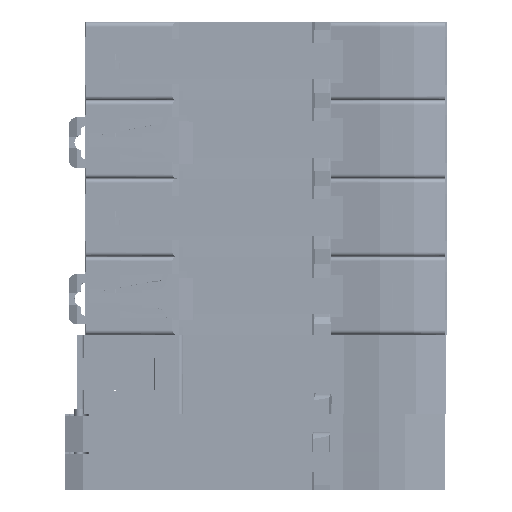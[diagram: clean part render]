
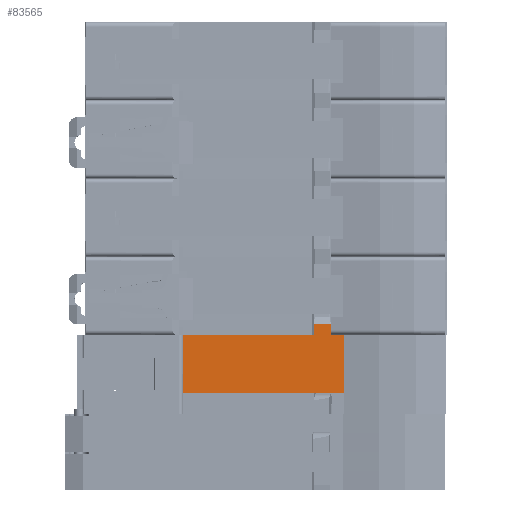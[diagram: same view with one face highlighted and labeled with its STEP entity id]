
A CAD part, front view. The second image highlights one B-rep face of the part: STEP entity #83565.
In plain terms, the highlighted planar face has unit normal (0, -1, 0) as drawn and (0, 1, 0) by its records, which use the part's own axes.
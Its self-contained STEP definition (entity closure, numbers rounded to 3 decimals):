
#18698 = EDGE_CURVE ( 'NONE', #98456, #97428, #146840, .T. ) ;
#18820 = EDGE_CURVE ( 'NONE', #97416, #97566, #154106, .T. ) ;
#18825 = EDGE_CURVE ( 'NONE', #97644, #97648, #154163, .T. ) ;
#18839 = EDGE_CURVE ( 'NONE', #97648, #97712, #154293, .T. ) ;
#18853 = EDGE_CURVE ( 'NONE', #97684, #97644, #154432, .T. ) ;
#18856 = EDGE_CURVE ( 'NONE', #97716, #97684, #154458, .T. ) ;
#18857 = EDGE_CURVE ( 'NONE', #97712, #97416, #154468, .T. ) ;
#18858 = EDGE_CURVE ( 'NONE', #97566, #98456, #154476, .T. ) ;
#18859 = EDGE_CURVE ( 'NONE', #97428, #98482, #154483, .T. ) ;
#18860 = EDGE_CURVE ( 'NONE', #98482, #97716, #154489, .T. ) ;
#31695 = ORIENTED_EDGE ( 'NONE', *, *, #18856, .T. ) ;
#31700 = ORIENTED_EDGE ( 'NONE', *, *, #18853, .T. ) ;
#31706 = ORIENTED_EDGE ( 'NONE', *, *, #18825, .T. ) ;
#31710 = ORIENTED_EDGE ( 'NONE', *, *, #18839, .T. ) ;
#31715 = ORIENTED_EDGE ( 'NONE', *, *, #18857, .T. ) ;
#31719 = ORIENTED_EDGE ( 'NONE', *, *, #18820, .T. ) ;
#31723 = ORIENTED_EDGE ( 'NONE', *, *, #18858, .T. ) ;
#31728 = ORIENTED_EDGE ( 'NONE', *, *, #18698, .T. ) ;
#31732 = ORIENTED_EDGE ( 'NONE', *, *, #18859, .T. ) ;
#31737 = ORIENTED_EDGE ( 'NONE', *, *, #18860, .T. ) ;
#55316 = CARTESIAN_POINT ( 'NONE',  ( -26.263, 26.68, -7.056 ) ) ;
#55326 = CARTESIAN_POINT ( 'NONE',  ( 9.987, 26.68, 6.044 ) ) ;
#55443 = CARTESIAN_POINT ( 'NONE',  ( -26.263, 26.68, 1.844 ) ) ;
#55519 = CARTESIAN_POINT ( 'NONE',  ( 7.188, 26.68, -9.556 ) ) ;
#55523 = CARTESIAN_POINT ( 'NONE',  ( 3.125, 26.68, -9.556 ) ) ;
#55559 = CARTESIAN_POINT ( 'NONE',  ( 7.188, 26.68, -7.056 ) ) ;
#55587 = CARTESIAN_POINT ( 'NONE',  ( 3.125, 26.68, -7.056 ) ) ;
#55591 = CARTESIAN_POINT ( 'NONE',  ( 9.987, 26.68, -7.056 ) ) ;
#55925 = CARTESIAN_POINT ( 'NONE',  ( -26.263, 26.68, 6.044 ) ) ;
#55951 = CARTESIAN_POINT ( 'NONE',  ( 9.987, 26.68, 1.844 ) ) ;
#83565 = ADVANCED_FACE ( 'NONE', ( #189982 ), #189983, .T. ) ;
#97416 = VERTEX_POINT ( 'NONE', #55316 ) ;
#97428 = VERTEX_POINT ( 'NONE', #55326 ) ;
#97566 = VERTEX_POINT ( 'NONE', #55443 ) ;
#97644 = VERTEX_POINT ( 'NONE', #55519 ) ;
#97648 = VERTEX_POINT ( 'NONE', #55523 ) ;
#97684 = VERTEX_POINT ( 'NONE', #55559 ) ;
#97712 = VERTEX_POINT ( 'NONE', #55587 ) ;
#97716 = VERTEX_POINT ( 'NONE', #55591 ) ;
#98456 = VERTEX_POINT ( 'NONE', #55925 ) ;
#98482 = VERTEX_POINT ( 'NONE', #55951 ) ;
#129629 = VECTOR ( 'NONE', #146870, 1000. ) ;
#129835 = VECTOR ( 'NONE', #154125, 1000. ) ;
#129843 = VECTOR ( 'NONE', #154170, 1000. ) ;
#129874 = VECTOR ( 'NONE', #154300, 1000. ) ;
#129895 = VECTOR ( 'NONE', #154438, 1000. ) ;
#129902 = VECTOR ( 'NONE', #154465, 1000. ) ;
#129904 = VECTOR ( 'NONE', #154475, 1000. ) ;
#129906 = VECTOR ( 'NONE', #154481, 1000. ) ;
#129908 = VECTOR ( 'NONE', #154487, 1000. ) ;
#129910 = VECTOR ( 'NONE', #154493, 1000. ) ;
#146840 = LINE ( 'NONE', #146863, #129629 ) ;
#146863 = CARTESIAN_POINT ( 'NONE',  ( -26.263, 26.68, 6.044 ) ) ;
#146870 = DIRECTION ( 'NONE',  ( 1., 0., 0. ) ) ;
#154106 = LINE ( 'NONE', #154122, #129835 ) ;
#154122 = CARTESIAN_POINT ( 'NONE',  ( -26.263, 26.68, -7.056 ) ) ;
#154125 = DIRECTION ( 'NONE',  ( 0., 0., 1. ) ) ;
#154163 = LINE ( 'NONE', #154168, #129843 ) ;
#154168 = CARTESIAN_POINT ( 'NONE',  ( -26.263, 26.68, -9.556 ) ) ;
#154170 = DIRECTION ( 'NONE',  ( -1., 0., 0. ) ) ;
#154293 = LINE ( 'NONE', #154297, #129874 ) ;
#154297 = CARTESIAN_POINT ( 'NONE',  ( 3.125, 26.68, -7.056 ) ) ;
#154300 = DIRECTION ( 'NONE',  ( 0., 0., 1. ) ) ;
#154432 = LINE ( 'NONE', #154435, #129895 ) ;
#154435 = CARTESIAN_POINT ( 'NONE',  ( 7.188, 26.68, -7.056 ) ) ;
#154438 = DIRECTION ( 'NONE',  ( 0., 0., -1. ) ) ;
#154458 = LINE ( 'NONE', #154462, #129902 ) ;
#154462 = CARTESIAN_POINT ( 'NONE',  ( -5.017, 26.68, -7.056 ) ) ;
#154465 = DIRECTION ( 'NONE',  ( -1., 0., 0. ) ) ;
#154468 = LINE ( 'NONE', #154473, #129904 ) ;
#154473 = CARTESIAN_POINT ( 'NONE',  ( -5.017, 26.68, -7.056 ) ) ;
#154475 = DIRECTION ( 'NONE',  ( -1., 0., 0. ) ) ;
#154476 = LINE ( 'NONE', #154479, #129906 ) ;
#154479 = CARTESIAN_POINT ( 'NONE',  ( -26.263, 26.68, -7.056 ) ) ;
#154481 = DIRECTION ( 'NONE',  ( 0., 0., 1. ) ) ;
#154483 = LINE ( 'NONE', #154485, #129908 ) ;
#154485 = CARTESIAN_POINT ( 'NONE',  ( 9.987, 26.68, -7.056 ) ) ;
#154487 = DIRECTION ( 'NONE',  ( 0., 0., -1. ) ) ;
#154489 = LINE ( 'NONE', #154491, #129910 ) ;
#154491 = CARTESIAN_POINT ( 'NONE',  ( 9.987, 26.68, -7.056 ) ) ;
#154493 = DIRECTION ( 'NONE',  ( 0., 0., -1. ) ) ;
#159958 = EDGE_LOOP ( 'NONE', ( #31695, #31700, #31706, #31710, #31715, #31719, #31723, #31728, #31732, #31737 ) ) ;
#189982 = FACE_OUTER_BOUND ( 'NONE', #159958, .T. ) ;
#189983 = PLANE ( 'NONE',  #190688 ) ;
#189984 = CARTESIAN_POINT ( 'NONE',  ( -26.263, 26.68, -7.056 ) ) ;
#189985 = DIRECTION ( 'NONE',  ( 0., 1., 0. ) ) ;
#189986 = DIRECTION ( 'NONE',  ( 0., 0., 1. ) ) ;
#190688 = AXIS2_PLACEMENT_3D ( 'NONE', #189984, #189985, #189986 ) ;
